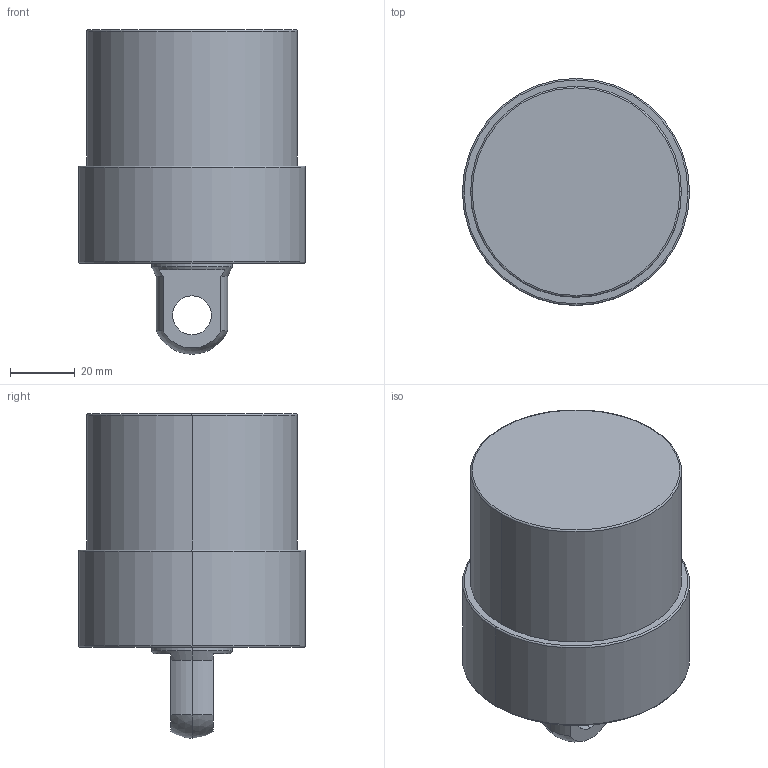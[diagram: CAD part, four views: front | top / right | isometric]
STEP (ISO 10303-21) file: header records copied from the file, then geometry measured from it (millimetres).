
FILE_DESCRIPTION (( 'STEP AP203' ), '1' );
FILE_NAME ('CLLU-065GP-025.STEP', '2020-01-06T09:18:40', ( '' ), ( '' ), 'SwSTEP 2.0', 'SolidWorks 2015', '' );
FILE_SCHEMA (( 'CONFIG_CONTROL_DESIGN' ));
Length unit declared in the file: millimetre
Products named in the file (1): CLLU-065GP-025
Bounding box: 70 x 70 x 100 mm (x, y, z)
Volume: 259010.6 mm3; surface area: 25671.7 mm2
Topology: 1 solids, 1 shells, 58 faces, 131 edges, 75 vertices
Faces by surface type: cylinder 23, cone 18, plane 9, torus 6, sphere 2
Entity records: 1658 total; most frequent: DIRECTION 311, CARTESIAN_POINT 269, ORIENTED_EDGE 246, AXIS2_PLACEMENT_3D 133, EDGE_CURVE 123, VERTEX_POINT 75, CIRCLE 74, EDGE_LOOP 68
